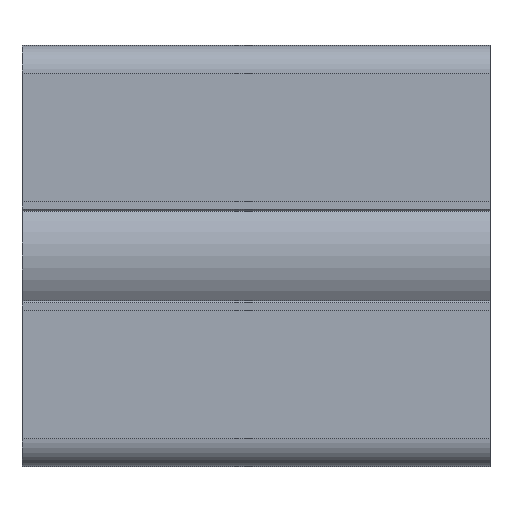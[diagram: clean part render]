
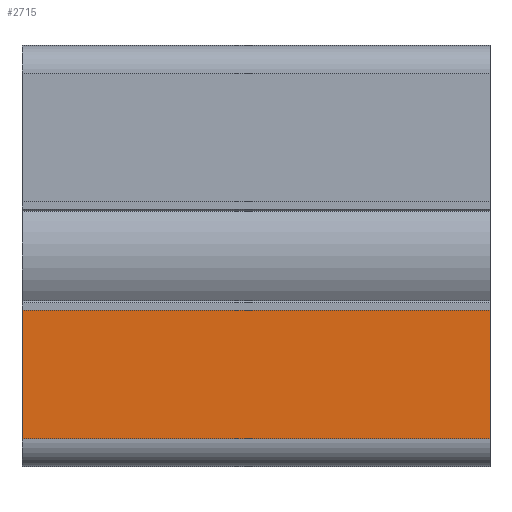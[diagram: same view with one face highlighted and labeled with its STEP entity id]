
A CAD part, front view. The second image highlights one B-rep face of the part: STEP entity #2715.
In plain terms, the highlighted planar face has unit normal (0, -1, 0).
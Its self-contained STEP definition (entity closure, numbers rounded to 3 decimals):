
#1521=EDGE_CURVE('',#3127,#2121,#4019,.T.);
#2121=VERTEX_POINT('',#4673);
#2129=EDGE_CURVE('',#3425,#3007,#4681,.T.);
#2249=EDGE_CURVE('',#2121,#3007,#4808,.T.);
#2715=ADVANCED_FACE('',(#5324),#5325,.T.);
#3007=VERTEX_POINT('',#5639);
#3127=VERTEX_POINT('',#5770);
#3315=EDGE_CURVE('',#3425,#3127,#5970,.T.);
#3425=VERTEX_POINT('',#6087);
#4019=LINE('',#6816,#6817);
#4673=CARTESIAN_POINT('',(50.0,-45.0,-19.5));
#4681=LINE('',#7752,#7753);
#4808=LINE('',#7935,#7936);
#5324=FACE_OUTER_BOUND('',#8675,.T.);
#5325=PLANE('',#8676);
#5639=CARTESIAN_POINT('',(50.0,-45.0,-5.8));
#5770=CARTESIAN_POINT('',(0.0,-45.0,-19.5));
#5970=LINE('',#9593,#9594);
#6087=CARTESIAN_POINT('',(0.0,-45.0,-5.8));
#6816=CARTESIAN_POINT('',(0.0,-45.0,-19.5));
#6817=VECTOR('',#10520,1.0);
#7752=CARTESIAN_POINT('',(0.0,-45.0,-5.8));
#7753=VECTOR('',#11143,1.0);
#7935=CARTESIAN_POINT('',(50.0,-45.0,-5.8));
#7936=VECTOR('',#11237,1.0);
#8675=EDGE_LOOP('',(#11910,#11911,#11912,#11913));
#8676=AXIS2_PLACEMENT_3D('',#11914,#11915,#11916);
#9593=CARTESIAN_POINT('',(0.0,-45.0,-5.8));
#9594=VECTOR('',#12475,1.0);
#10520=DIRECTION('',(1.0,0.0,0.0));
#11143=DIRECTION('',(1.0,0.0,0.0));
#11237=DIRECTION('',(0.0,0.0,1.0));
#11910=ORIENTED_EDGE('',*,*,#2249,.T.);
#11911=ORIENTED_EDGE('',*,*,#2129,.F.);
#11912=ORIENTED_EDGE('',*,*,#3315,.T.);
#11913=ORIENTED_EDGE('',*,*,#1521,.T.);
#11914=CARTESIAN_POINT('',(0.0,-45.0,-19.5));
#11915=DIRECTION('',(0.0,-1.0,0.0));
#11916=DIRECTION('',(0.0,0.0,-1.0));
#12475=DIRECTION('',(0.0,0.0,-1.0));
